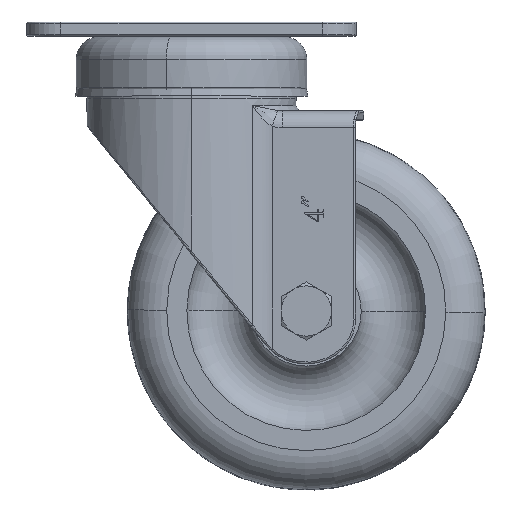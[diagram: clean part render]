
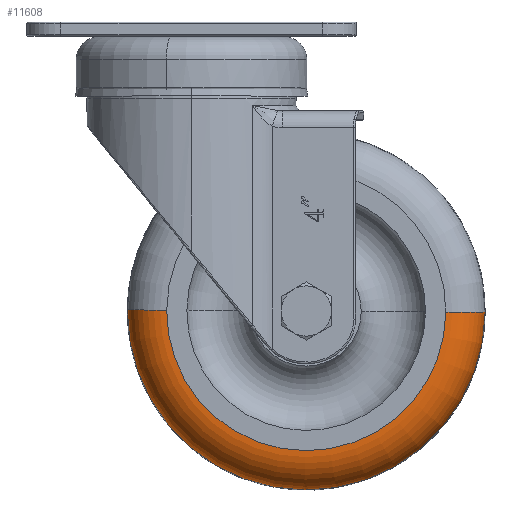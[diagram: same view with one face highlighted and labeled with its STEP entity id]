
A CAD part, top view. The second image highlights one B-rep face of the part: STEP entity #11608.
In plain terms, the highlighted toroidal (fillet/blend) face has major radius 39.701 mm and minor radius 11 mm.
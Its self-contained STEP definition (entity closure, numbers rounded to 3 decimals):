
#442 = AXIS2_PLACEMENT_3D ( 'NONE', #14491, #7768, #21021 ) ;
#595 = CIRCLE ( 'NONE', #17859, 11. ) ;
#2064 = CIRCLE ( 'NONE', #442, 11. ) ;
#3214 = CARTESIAN_POINT ( 'NONE',  ( -24.509, -27.616, 112.898 ) ) ;
#4136 = CIRCLE ( 'NONE', #11959, 39.598 ) ;
#4186 = ORIENTED_EDGE ( 'NONE', *, *, #14078, .T. ) ;
#4772 = DIRECTION ( 'NONE',  ( 0., 0., -1. ) ) ;
#4893 = CARTESIAN_POINT ( 'NONE',  ( -35.585, -27.54, 102.669 ) ) ;
#6054 = AXIS2_PLACEMENT_3D ( 'NONE', #21474, #9806, #19696 ) ;
#6400 = VERTEX_POINT ( 'NONE', #3214 ) ;
#7303 = ORIENTED_EDGE ( 'NONE', *, *, #18371, .F. ) ;
#7634 = DIRECTION ( 'NONE',  ( 0.007, 1., 0. ) ) ;
#7763 = ORIENTED_EDGE ( 'NONE', *, *, #15411, .F. ) ;
#7768 = DIRECTION ( 'NONE',  ( -0.007, -1., 0. ) ) ;
#8655 = FACE_OUTER_BOUND ( 'NONE', #20681, .T. ) ;
#9120 = CARTESIAN_POINT ( 'NONE',  ( 54.684, -28.157, 112.898 ) ) ;
#9806 = DIRECTION ( 'NONE',  ( 0., 0., -1. ) ) ;
#10134 = AXIS2_PLACEMENT_3D ( 'NONE', #13676, #20267, #13898 ) ;
#11608 = ADVANCED_FACE ( 'NONE', ( #8655 ), #14605, .T. ) ;
#11749 = VERTEX_POINT ( 'NONE', #14352 ) ;
#11959 = AXIS2_PLACEMENT_3D ( 'NONE', #16313, #4772, #13005 ) ;
#13005 = DIRECTION ( 'NONE',  ( -1., 0.007, 0. ) ) ;
#13609 = EDGE_CURVE ( 'NONE', #6400, #18133, #2064, .T. ) ;
#13676 = CARTESIAN_POINT ( 'NONE',  ( 15.087, -27.886, 101.898 ) ) ;
#13898 = DIRECTION ( 'NONE',  ( -1., 0.007, 0. ) ) ;
#14078 = EDGE_CURVE ( 'NONE', #14930, #6400, #4136, .T. ) ;
#14352 = CARTESIAN_POINT ( 'NONE',  ( 65.76, -28.232, 102.669 ) ) ;
#14491 = CARTESIAN_POINT ( 'NONE',  ( -24.613, -27.615, 101.898 ) ) ;
#14605 = TOROIDAL_SURFACE ( 'NONE', #10134, 39.701, 11. ) ;
#14930 = VERTEX_POINT ( 'NONE', #9120 ) ;
#15411 = EDGE_CURVE ( 'NONE', #11749, #18133, #21228, .T. ) ;
#16313 = CARTESIAN_POINT ( 'NONE',  ( 15.087, -27.886, 112.898 ) ) ;
#17527 = CARTESIAN_POINT ( 'NONE',  ( 54.787, -28.157, 101.898 ) ) ;
#17859 = AXIS2_PLACEMENT_3D ( 'NONE', #17527, #7634, #20809 ) ;
#18133 = VERTEX_POINT ( 'NONE', #4893 ) ;
#18371 = EDGE_CURVE ( 'NONE', #14930, #11749, #595, .T. ) ;
#18772 = ORIENTED_EDGE ( 'NONE', *, *, #13609, .T. ) ;
#19696 = DIRECTION ( 'NONE',  ( -1., 0.007, 0. ) ) ;
#20267 = DIRECTION ( 'NONE',  ( 0., 0., -1. ) ) ;
#20681 = EDGE_LOOP ( 'NONE', ( #7303, #4186, #18772, #7763 ) ) ;
#20809 = DIRECTION ( 'NONE',  ( -1., 0.007, 0. ) ) ;
#21021 = DIRECTION ( 'NONE',  ( 1., -0.007, 0. ) ) ;
#21228 = CIRCLE ( 'NONE', #6054, 50.674 ) ;
#21474 = CARTESIAN_POINT ( 'NONE',  ( 15.087, -27.886, 102.669 ) ) ;
